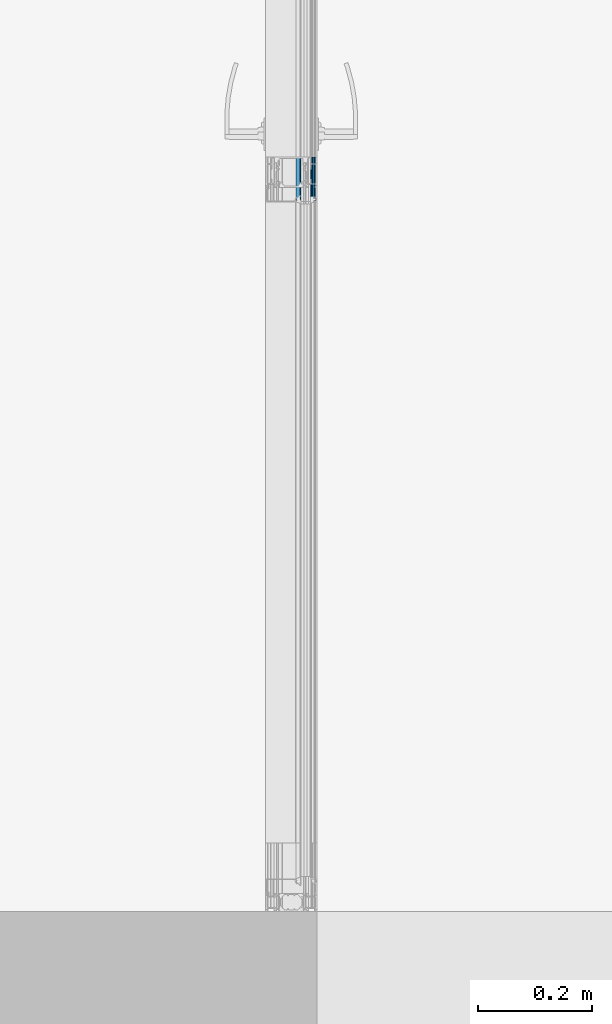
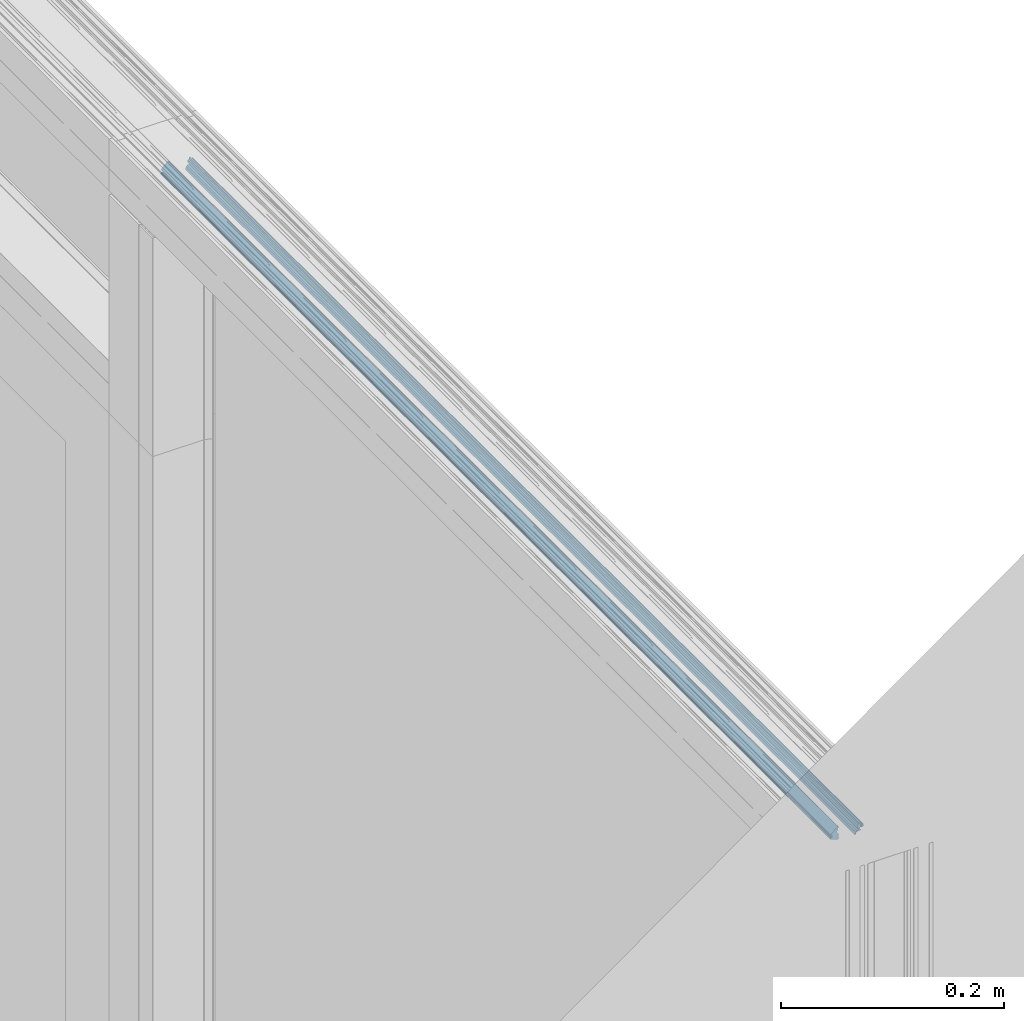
# One storey, part 16 of 65: 1 building element part, 2 elements without a shape of their own.
"""IFC2X3 building model written with IfcOpenShell, lengths in millimetres."""

from ifc_helpers import new_model, entity, si_unit, converted_unit, derived_unit, money_unit, direction, frame, origin_with_axes, place, context, subcontext, project, spatial, faceted_brep, source, transform, mapped, material, type_object, element, aggregate, save


model = new_model("IFC2X3")

# Units and contexts
model_context = context("Model", 3, precision=0.01, world=origin_with_axes(), true_north=direction((0.0, 1.0)))
body_context = subcontext(model_context, "Body", "Model", "MODEL_VIEW")
ifc_project = project(units=[si_unit("LENGTHUNIT", "METRE", prefix="MILLI"), si_unit("AREAUNIT", "SQUARE_METRE"), si_unit("VOLUMEUNIT", "CUBIC_METRE"), converted_unit("PLANEANGLEUNIT", "DEGREE", entity("IfcPlaneAngleMeasure", 0.0174532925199), si_unit("PLANEANGLEUNIT", "RADIAN"), dimensions=[0, 0, 0, 0, 0, 0, 0]), si_unit("SOLIDANGLEUNIT", "STERADIAN"), money_unit("EUR"), converted_unit("TIMEUNIT", "Year", entity("IfcTimeMeasure", 31556926.0), si_unit("TIMEUNIT", "SECOND"), dimensions=[0, 0, 1, 0, 0, 0, 0]), si_unit("MASSUNIT", "GRAM", prefix="KILO"), si_unit("THERMODYNAMICTEMPERATUREUNIT", "DEGREE_CELSIUS"), si_unit("LUMINOUSINTENSITYUNIT", "LUMEN"), si_unit("ENERGYUNIT", "JOULE", prefix="MEGA"), derived_unit("THERMALCONDUCTANCEUNIT", [(si_unit("POWERUNIT", "WATT"), 1), (si_unit("LENGTHUNIT", "METRE"), -1), (si_unit("THERMODYNAMICTEMPERATUREUNIT", "KELVIN"), -1)]), derived_unit("SPECIFICHEATCAPACITYUNIT", [(si_unit("ENERGYUNIT", "JOULE"), 1), (si_unit("MASSUNIT", "GRAM", prefix="KILO"), -1), (si_unit("THERMODYNAMICTEMPERATUREUNIT", "KELVIN"), -1)]), derived_unit("MASSDENSITYUNIT", [(si_unit("MASSUNIT", "GRAM", prefix="KILO"), 1), (si_unit("VOLUMEUNIT", "CUBIC_METRE"), -1)])], contexts=[model_context])

# Site, building, storey
site_placement = place(None, origin_with_axes())
site = spatial("IfcSite", under=ifc_project, at=site_placement, Name="Puškini 31, Narva", CompositionType="ELEMENT")
building_placement = place(site_placement, origin_with_axes())
building = spatial("IfcBuilding", under=site, at=building_placement, Name="Narva Riigigümnaasium", CompositionType="ELEMENT")
storey_placement = place(building_placement, frame((0.0, 0.0, -1320.0), z_axis=(0.0, 0.0, 1.0), x_axis=(1.0, 0.0, 0.0)))
storey = spatial("IfcBuildingStorey", under=building, at=storey_placement, Name="1.korrus -1.32", CompositionType="ELEMENT", Elevation=-1320.0)

# Curtain wall, member, building element part
curtain_wall_type = type_object("IfcCurtainWallType", Name="Curtain Wall Type", PredefinedType="NOTDEFINED")
curtain_wall_placement = place(storey_placement, frame((28354.9542923, 194209.397521, 0.0), z_axis=(0.0, 0.0, 1.0), x_axis=(1.0, 0.0, 0.0)))
curtain_wall = element("IfcCurtainWall", 1, at=curtain_wall_placement, inside=storey, type_object=curtain_wall_type, Name="G-SKLF-07")
member_type = type_object("IfcMemberType", Name="61 x 45", PredefinedType="MULLION")
member_placement = place(curtain_wall_placement, frame((-0.00287447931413, -709.401652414, 2700.0), z_axis=(-4.05197718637e-06, -0.999999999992, 0.0), x_axis=(0.0, 0.0, -1.0)))
member = element("IfcMember", 2, at=member_placement, type_object=member_type, Name="G-SKLF-24", ObjectType="MULLION")
aggregate(curtain_wall, [member])
ifc_material = material(Name="Membraan - Veekindel")
shared_shape = source(origin_with_axes(), body_context, "Body", "Brep", [
    faceted_brep([(61.0413385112, 34.3890442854, 0.0), (59.5800222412, 34.73794757, 0.0), (59.5800222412, 34.73794757, 1200.0), (61.0413385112, 34.3890442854, 1200.0), (61.1536677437, 34.1934467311, 0.0), (61.1423164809, 33.9681748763, 0.0), (61.0108941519, 33.784859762, 0.0), (60.7381535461, 33.9217644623, 0.0), (59.8409257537, 34.1343131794, 0.0), (58.2346494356, 34.5489145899, 0.0), (56.9567944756, 35.6067920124, 0.0), (56.2495873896, 37.1074172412, 0.0), (56.1542959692, 37.3107917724, 0.0), (55.9795989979, 37.4519392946, 0.0), (55.7607444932, 37.5023809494, 0.0), (55.1093263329, 37.5023809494, 0.0), (54.8593263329, 37.4353936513, 0.0), (54.676313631, 37.2523809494, 0.0), (54.2721684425, 36.5523809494, 0.0), (54.0891557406, 36.3693682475, 0.0), (53.8391557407, 36.3023809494, 0.0), (51.602145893, 36.3023809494, 0.0), (51.352145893, 36.3693682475, 0.0), (51.1691331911, 36.5523809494, 0.0), (50.7649880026, 37.2523809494, 0.0), (50.5819753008, 37.4353936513, 0.0), (50.3319753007, 37.5023809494, 0.0), (49.2206527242, 37.5023809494, 0.0), (48.9706527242, 37.5693682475, 0.0), (48.7876400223, 37.7523809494, 0.0), (48.7206527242, 38.0023809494, 0.0), (48.7206527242, 39.1999494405, 0.0), (50.10004, 39.1999494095, 0.0), (50.1670287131, 38.9499497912, 0.0), (50.3500424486, 38.7669381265, 0.0), (50.6000428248, 38.699952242, 0.0), (50.8500424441, 38.7669409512, 0.0), (51.0330541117, 38.9499546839, 0.0), (51.10004, 39.1999550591, 0.0), (51.10004, 40.4999366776, 0.0), (51.0598476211, 40.6499366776, 0.0), (50.95004, 40.7597442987, 0.0), (50.80004, 40.7999366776, 0.0), (50.7000457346, 40.7999366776, 0.0), (50.5334025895, 40.8504763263, 0.0), (50.4229059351, 40.9850671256, 0.0), (50.4057850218, 41.1583618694, 0.0), (50.4878083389, 41.3119729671, 0.0), (51.5281601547, 42.3533311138, 0.0), (51.6904310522, 42.4618421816, 0.0), (51.8818844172, 42.4999486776, 0.0), (53.517932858, 42.4999486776, 0.0), (53.7093558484, 42.4618547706, 0.0), (53.8716106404, 42.3533776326, 0.0), (54.9122350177, 41.3120206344, 0.0), (54.9942836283, 41.1584047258, 0.0), (54.9771753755, 40.9850924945, 0.0), (54.866675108, 40.850483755, 0.0), (54.7000173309, 40.7999366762, 0.0), (54.6000210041, 40.7999366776, 0.0), (54.4500210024, 40.7597443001, 0.0), (54.3402133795, 40.6499366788, 0.0), (54.300021, 40.4999366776, 0.0), (54.300021, 39.1999606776, 0.0), (54.3670082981, 38.9499606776, 0.0), (54.5500210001, 38.7669479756, 0.0), (54.8000210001, 38.6999606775, 0.0), (55.0500210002, 38.7669479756, 0.0), (55.2330337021, 38.9499606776, 0.0), (55.3000210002, 39.1999606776, 0.0), (57.3000022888, 39.1999494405, 0.0), (57.3000022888, 39.9999846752, 0.0), (57.5000161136, 39.946391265, 0.0), (57.6464370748, 39.799971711, 0.0), (57.7000324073, 39.5999584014, 0.0), (57.9693613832, 36.5265882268, 0.0), (58.4755028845, 35.3628499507, 0.0), (53.5000340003, 40.7999553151, 0.0), (53.4330491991, 41.0499459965, 0.0), (53.2500433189, 41.2329518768, 0.0), (53.0000526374, 41.299936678, 0.0), (52.4000083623, 41.299936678, 0.0), (52.150017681, 41.2329518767, 0.0), (51.9670118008, 41.0499459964, 0.0), (51.9000269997, 40.799955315, 0.0), (51.9000269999, 39.6999268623, 0.0), (51.9670129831, 39.4499317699, 0.0), (52.1500220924, 39.2669226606, 0.0), (52.4000171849, 39.1999366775, 0.0), (53.0000438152, 39.1999366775, 0.0), (53.2500389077, 39.2669226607, 0.0), (53.433048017, 39.44993177, 0.0), (58.4755028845, 35.3628499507, 1200.0), (57.9693613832, 36.5265882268, 1200.0), (57.7000324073, 39.5999584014, 1200.0), (57.6464370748, 39.799971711, 1200.0), (57.5000161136, 39.946391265, 1200.0), (57.3000022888, 39.9999846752, 1200.0), (57.3000022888, 39.1999494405, 1200.0), (55.3000210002, 39.1999606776, 1200.0), (55.2330337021, 38.9499606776, 1200.0), (55.0500210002, 38.7669479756, 1200.0), (54.8000210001, 38.6999606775, 1200.0), (54.5500210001, 38.7669479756, 1200.0), (54.3670082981, 38.9499606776, 1200.0), (54.300021, 39.1999606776, 1200.0), (54.300021, 40.4999366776, 1200.0), (54.3402133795, 40.6499366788, 1200.0), (54.4500210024, 40.7597443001, 1200.0), (54.6000210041, 40.7999366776, 1200.0), (54.7000173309, 40.7999366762, 1200.0), (54.866675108, 40.850483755, 1200.0), (54.9771753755, 40.9850924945, 1200.0), (54.9942836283, 41.1584047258, 1200.0), (54.9122350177, 41.3120206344, 1200.0), (53.8716106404, 42.3533776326, 1200.0), (53.7093558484, 42.4618547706, 1200.0), (53.517932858, 42.4999486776, 1200.0), (51.8818844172, 42.4999486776, 1200.0), (51.6904310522, 42.4618421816, 1200.0), (51.5281601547, 42.3533311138, 1200.0), (50.4878083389, 41.3119729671, 1200.0), (50.4057850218, 41.1583618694, 1200.0), (50.4229059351, 40.9850671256, 1200.0), (50.5334025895, 40.8504763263, 1200.0), (50.7000457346, 40.7999366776, 1200.0), (50.80004, 40.7999366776, 1200.0), (50.95004, 40.7597442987, 1200.0), (51.0598476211, 40.6499366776, 1200.0), (51.10004, 40.4999366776, 1200.0), (51.10004, 39.1999550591, 1200.0), (51.0330541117, 38.9499546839, 1200.0), (50.8500424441, 38.7669409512, 1200.0), (50.6000428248, 38.699952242, 1200.0), (50.3500424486, 38.7669381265, 1200.0), (50.1670287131, 38.9499497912, 1200.0), (50.10004, 39.1999494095, 1200.0), (48.7206527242, 39.1999494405, 1200.0), (48.7206527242, 38.0023809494, 1200.0), (48.7876400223, 37.7523809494, 1200.0), (48.9706527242, 37.5693682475, 1200.0), (49.2206527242, 37.5023809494, 1200.0), (50.3319753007, 37.5023809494, 1200.0), (50.5819753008, 37.4353936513, 1200.0), (50.7649880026, 37.2523809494, 1200.0), (51.1691331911, 36.5523809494, 1200.0), (51.352145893, 36.3693682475, 1200.0), (51.602145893, 36.3023809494, 1200.0), (53.8391557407, 36.3023809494, 1200.0), (54.0891557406, 36.3693682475, 1200.0), (54.2721684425, 36.5523809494, 1200.0), (54.676313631, 37.2523809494, 1200.0), (54.8593263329, 37.4353936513, 1200.0), (55.1093263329, 37.5023809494, 1200.0), (55.7607444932, 37.5023809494, 1200.0), (55.9795989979, 37.4519392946, 1200.0), (56.1542959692, 37.3107917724, 1200.0), (56.2495873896, 37.1074172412, 1200.0), (56.9567944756, 35.6067920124, 1200.0), (58.2346494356, 34.5489145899, 1200.0), (59.8409257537, 34.1343131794, 1200.0), (60.7381535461, 33.9217644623, 1200.0), (61.0108941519, 33.784859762, 1200.0), (61.1423164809, 33.9681748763, 1200.0), (61.1536677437, 34.1934467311, 1200.0), (53.5000340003, 40.7999553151, 1200.0), (53.433048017, 39.44993177, 1200.0), (53.2500389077, 39.2669226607, 1200.0), (53.0000438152, 39.1999366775, 1200.0), (52.4000171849, 39.1999366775, 1200.0), (52.1500220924, 39.2669226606, 1200.0), (51.9670129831, 39.4499317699, 1200.0), (51.9000269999, 39.6999268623, 1200.0), (51.9000269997, 40.799955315, 1200.0), (51.9670118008, 41.0499459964, 1200.0), (52.150017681, 41.2329518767, 1200.0), (52.4000083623, 41.299936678, 1200.0), (53.0000526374, 41.299936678, 1200.0), (53.2500433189, 41.2329518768, 1200.0), (53.4330491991, 41.0499459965, 1200.0)], [[[0, 1, 2, 3]], [[0, 4, 5, 6, 7, 8, 9, 10, 11, 12, 13, 14, 15, 16, 17, 18, 19, 20, 21, 22, 23, 24, 25, 26, 27, 28, 29, 30, 31, 32, 33, 34, 35, 36, 37, 38, 39, 40, 41, 42, 43, 44, 45, 46, 47, 48, 49, 50, 51, 52, 53, 54, 55, 56, 57, 58, 59, 60, 61, 62, 63, 64, 65, 66, 67, 68, 69, 70, 71, 72, 73, 74, 75, 76, 1], [77, 78, 79, 80, 81, 82, 83, 84, 85, 86, 87, 88, 89, 90, 91]], [[1, 76, 92, 2]], [[3, 2, 92, 93, 94, 95, 96, 97, 98, 99, 100, 101, 102, 103, 104, 105, 106, 107, 108, 109, 110, 111, 112, 113, 114, 115, 116, 117, 118, 119, 120, 121, 122, 123, 124, 125, 126, 127, 128, 129, 130, 131, 132, 133, 134, 135, 136, 137, 138, 139, 140, 141, 142, 143, 144, 145, 146, 147, 148, 149, 150, 151, 152, 153, 154, 155, 156, 157, 158, 159, 160, 161, 162, 163, 164], [165, 166, 167, 168, 169, 170, 171, 172, 173, 174, 175, 176, 177, 178, 179]], [[4, 0, 3, 164]], [[5, 4, 164, 163]], [[6, 5, 163, 162]], [[7, 6, 162, 161]], [[8, 7, 161, 160]], [[9, 8, 160, 159]], [[10, 9, 159, 158]], [[11, 10, 158, 157]], [[12, 11, 157, 156]], [[13, 12, 156, 155]], [[14, 13, 155, 154]], [[15, 14, 154, 153]], [[16, 15, 153, 152]], [[17, 16, 152, 151]], [[18, 17, 151, 150]], [[19, 18, 150, 149]], [[20, 19, 149, 148]], [[21, 20, 148, 147]], [[22, 21, 147, 146]], [[23, 22, 146, 145]], [[24, 23, 145, 144]], [[25, 24, 144, 143]], [[26, 25, 143, 142]], [[27, 26, 142, 141]], [[28, 27, 141, 140]], [[29, 28, 140, 139]], [[30, 29, 139, 138]], [[31, 30, 138, 137]], [[32, 31, 137, 136]], [[33, 32, 136, 135]], [[34, 33, 135, 134]], [[35, 34, 134, 133]], [[36, 35, 133, 132]], [[37, 36, 132, 131]], [[38, 37, 131, 130]], [[39, 38, 130, 129]], [[40, 39, 129, 128]], [[41, 40, 128, 127]], [[42, 41, 127, 126]], [[43, 42, 126, 125]], [[44, 43, 125, 124]], [[45, 44, 124, 123]], [[46, 45, 123, 122]], [[47, 46, 122, 121]], [[48, 47, 121, 120]], [[49, 48, 120, 119]], [[50, 49, 119, 118]], [[51, 50, 118, 117]], [[52, 51, 117, 116]], [[53, 52, 116, 115]], [[54, 53, 115, 114]], [[55, 54, 114, 113]], [[56, 55, 113, 112]], [[57, 56, 112, 111]], [[58, 57, 111, 110]], [[59, 58, 110, 109]], [[60, 59, 109, 108]], [[61, 60, 108, 107]], [[62, 61, 107, 106]], [[63, 62, 106, 105]], [[64, 63, 105, 104]], [[65, 64, 104, 103]], [[66, 65, 103, 102]], [[67, 66, 102, 101]], [[68, 67, 101, 100]], [[69, 68, 100, 99]], [[70, 69, 99, 98]], [[71, 70, 98, 97]], [[72, 71, 97, 96]], [[73, 72, 96, 95]], [[74, 73, 95, 94]], [[75, 74, 94, 93]], [[76, 75, 93, 92]], [[78, 77, 165, 179]], [[79, 78, 179, 178]], [[80, 79, 178, 177]], [[81, 80, 177, 176]], [[82, 81, 176, 175]], [[83, 82, 175, 174]], [[84, 83, 174, 173]], [[85, 84, 173, 172]], [[86, 85, 172, 171]], [[87, 86, 171, 170]], [[88, 87, 170, 169]], [[89, 88, 169, 168]], [[90, 89, 168, 167]], [[91, 90, 167, 166]], [[77, 91, 166, 165]]]),
    faceted_brep([(59.0307115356, 16.554149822, 0.0), (55.9926715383, 16.8063498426, 0.0), (55.9926715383, 16.8063498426, 1200.0), (59.0307115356, 16.554149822, 1200.0), (59.3884652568, 16.1092618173, 0.0), (59.5001582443, 15.5494067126, 0.0), (59.3405112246, 15.0012955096, 0.0), (57.5418652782, 10.0035930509, 0.0), (57.2632233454, 8.46932121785, 0.0), (57.1824204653, 8.36745448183, 0.0), (57.0661058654, 8.3093438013, 0.0), (56.9361285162, 8.30590490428, 0.0), (55.5361285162, 8.57803733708, 0.0), (55.4168250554, 8.62997353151, 0.0), (55.3307332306, 8.72753828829, 0.0), (55.2940485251, 8.85237785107, 0.0), (55.4099827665, 9.81272116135, 0.0), (55.3838261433, 9.9780831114, 0.0), (55.2731258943, 10.1036784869, 0.0), (55.1123574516, 10.1503930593, 0.0), (53.0580290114, 10.1503930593, 0.0), (52.8859560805, 10.0961386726, 0.0), (52.7761212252, 9.95299910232, 0.0), (52.3556584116, 8.79778701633, 0.0), (52.2574645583, 8.66326410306, 0.0), (52.1026310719, 8.60190419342, 0.0), (51.938943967, 8.6326446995, 0.0), (51.8169217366, 8.74599822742, 0.0), (45.6142070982, 15.4144760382, 0.0), (45.3418968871, 15.7688623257, 0.0), (45.3195226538, 16.2152275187, 0.0), (45.3889077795, 16.3899097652, 0.0), (45.6241929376, 16.6482027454, 0.0), (45.950966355, 16.7718696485, 0.0), (46.298307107, 16.7340705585, 0.0), (50.5536994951, 15.2121179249, 0.0), (50.8437237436, 15.0307134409, 0.0), (51.0558924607, 14.9074036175, 0.0), (51.3011765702, 14.8998814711, 0.0), (51.5205025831, 15.0099586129, 0.0), (53.1225200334, 16.3483062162, 0.0), (53.7899070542, 16.6230039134, 0.0), (53.7899070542, 16.6230039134, 1200.0), (53.1225200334, 16.3483062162, 1200.0), (51.5205025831, 15.0099586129, 1200.0), (51.3011765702, 14.8998814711, 1200.0), (51.0558924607, 14.9074036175, 1200.0), (50.8437237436, 15.0307134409, 1200.0), (50.5536994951, 15.2121179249, 1200.0), (46.298307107, 16.7340705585, 1200.0), (45.950966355, 16.7718696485, 1200.0), (45.6241929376, 16.6482027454, 1200.0), (45.3889077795, 16.3899097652, 1200.0), (45.3195226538, 16.2152275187, 1200.0), (45.3418968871, 15.7688623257, 1200.0), (45.6142070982, 15.4144760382, 1200.0), (51.8169217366, 8.74599822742, 1200.0), (51.938943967, 8.6326446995, 1200.0), (52.1026310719, 8.60190419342, 1200.0), (52.2574645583, 8.66326410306, 1200.0), (52.3556584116, 8.79778701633, 1200.0), (52.7761212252, 9.95299910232, 1200.0), (52.8859560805, 10.0961386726, 1200.0), (53.0580290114, 10.1503930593, 1200.0), (55.1123574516, 10.1503930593, 1200.0), (55.2731258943, 10.1036784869, 1200.0), (55.3838261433, 9.9780831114, 1200.0), (55.4099827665, 9.81272116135, 1200.0), (55.2940485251, 8.85237785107, 1200.0), (55.3307332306, 8.72753828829, 1200.0), (55.4168250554, 8.62997353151, 1200.0), (55.5361285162, 8.57803733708, 1200.0), (56.9361285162, 8.30590490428, 1200.0), (57.0661058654, 8.3093438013, 1200.0), (57.1824204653, 8.36745448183, 1200.0), (57.2632233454, 8.46932121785, 1200.0), (57.5418652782, 10.0035930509, 1200.0), (59.3405112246, 15.0012955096, 1200.0), (59.5001582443, 15.5494067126, 1200.0), (59.3884652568, 16.1092618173, 1200.0)], [[[0, 1, 2, 3]], [[0, 4, 5, 6, 7, 8, 9, 10, 11, 12, 13, 14, 15, 16, 17, 18, 19, 20, 21, 22, 23, 24, 25, 26, 27, 28, 29, 30, 31, 32, 33, 34, 35, 36, 37, 38, 39, 40, 41, 1]], [[1, 41, 42, 2]], [[3, 2, 42, 43, 44, 45, 46, 47, 48, 49, 50, 51, 52, 53, 54, 55, 56, 57, 58, 59, 60, 61, 62, 63, 64, 65, 66, 67, 68, 69, 70, 71, 72, 73, 74, 75, 76, 77, 78, 79]], [[4, 0, 3, 79]], [[5, 4, 79, 78]], [[6, 5, 78, 77]], [[7, 6, 77, 76]], [[8, 7, 76, 75]], [[9, 8, 75, 74]], [[10, 9, 74, 73]], [[11, 10, 73, 72]], [[12, 11, 72, 71]], [[13, 12, 71, 70]], [[14, 13, 70, 69]], [[15, 14, 69, 68]], [[16, 15, 68, 67]], [[17, 16, 67, 66]], [[18, 17, 66, 65]], [[19, 18, 65, 64]], [[20, 19, 64, 63]], [[21, 20, 63, 62]], [[22, 21, 62, 61]], [[23, 22, 61, 60]], [[24, 23, 60, 59]], [[25, 24, 59, 58]], [[26, 25, 58, 57]], [[27, 26, 57, 56]], [[28, 27, 56, 55]], [[29, 28, 55, 54]], [[30, 29, 54, 53]], [[31, 30, 53, 52]], [[32, 31, 52, 51]], [[33, 32, 51, 50]], [[34, 33, 50, 49]], [[35, 34, 49, 48]], [[36, 35, 48, 47]], [[37, 36, 47, 46]], [[38, 37, 46, 45]], [[39, 38, 45, 44]], [[40, 39, 44, 43]], [[41, 40, 43, 42]]]),
])
building_element_part_placement = place(member_placement, origin_with_axes())
building_element_part = element("IfcBuildingElementPart", 3, at=building_element_part_placement, material=ifc_material, Name="Membraan - Veekindel", context=body_context, shape_type="MappedRepresentation", body=[
    mapped(shared_shape, transform((0.0, 0.0, 0.0))),
])
aggregate(member, [building_element_part])

save(model, "model.ifc")
